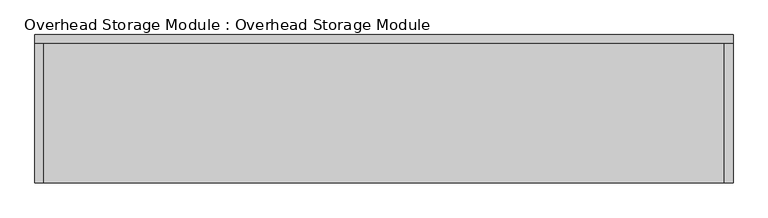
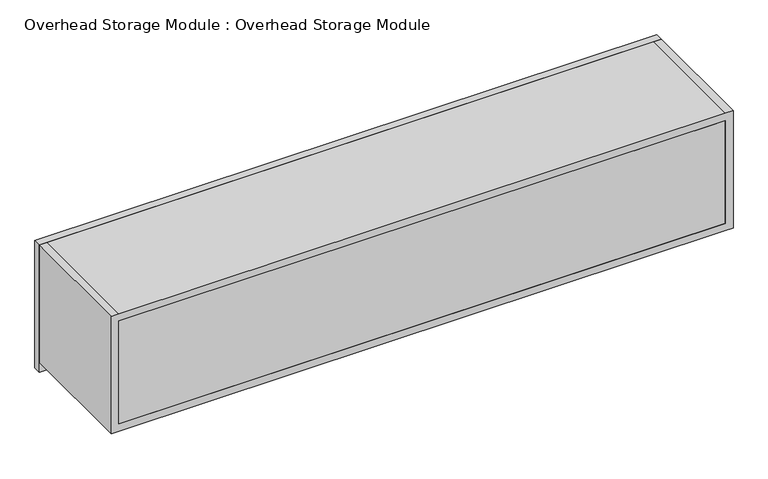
"""IFC4 building model written with IfcOpenShell, lengths in millimetres: furniture geometry, Overhead Storage Module : Overhead Storage Module."""

import ifcopenshell
import ifcopenshell.guid

model = None  # the IFC model being written
_history = None  # IfcOwnerHistory: only IFC2X3 demands one
_inside = {}  # id of a spatial element -> (the spatial element, [elements in it])
_under = {}  # id of a project, library or spatial element -> (it, [spatial elements below it])
_declared = {}  # id of a project -> (the project, [libraries it declares])
_typed = {}  # id of a type object -> (the type object, [elements of that type])
_made_of = {}  # id of a material, layer set ... -> (it, [elements and type objects made of it])


def new_model(schema):
    """Start an empty IFC model of exactly this schema.

    Asked for "IFC4X3", IfcOpenShell would pick the latest addendum, in which some entities
    have other attributes; the version numbers below select the first issue.
    IFC2X3 requires an IfcOwnerHistory on every rooted entity: one is made here for all.
    """
    global model, _history
    if schema == "IFC4X3":
        model = ifcopenshell.file(schema_version=(4, 3, 0, 0))
    else:
        model = ifcopenshell.file(schema=schema)
    _inside.clear()
    _under.clear()
    _declared.clear()
    _typed.clear()
    _made_of.clear()
    _history = None
    if model.schema == "IFC2X3":
        org = make("IfcOrganization", Name="unknown")
        user = make(
            "IfcPersonAndOrganization",
            ThePerson=make("IfcPerson", FamilyName="unknown"),
            TheOrganization=org,
        )
        app = make(
            "IfcApplication",
            ApplicationDeveloper=org,
            Version="unknown",
            ApplicationFullName="unknown",
            ApplicationIdentifier="unknown",
        )
        _history = make(
            "IfcOwnerHistory",
            OwningUser=user,
            OwningApplication=app,
            ChangeAction="ADDED",
            CreationDate=0,
        )
    return model


def make(cls, **values):
    """One entity of the class cls with the attributes given. An attribute that is None is left unset."""
    return model.create_entity(
        cls, **{name: value for name, value in values.items() if value is not None}
    )


def rooted(cls, **values):
    """An entity with a GlobalId (a new one), such as an element, a storey or a relation."""
    return make(cls, GlobalId=ifcopenshell.guid.new(), OwnerHistory=_history, **values)


def si_unit(unit_type, name, prefix=None):
    """IfcSIUnit, for example si_unit("LENGTHUNIT", "METRE", prefix="MILLI")."""
    return make("IfcSIUnit", UnitType=unit_type, Prefix=prefix, Name=name)


def assignment(units):
    """IfcUnitAssignment: the units of a project."""
    return None if units is None else make("IfcUnitAssignment", Units=units)


def point(xyz):
    """IfcCartesianPoint."""
    return None if xyz is None else make("IfcCartesianPoint", Coordinates=xyz)


def direction(xyz):
    """IfcDirection."""
    return None if xyz is None else make("IfcDirection", DirectionRatios=xyz)


def frame(location, z_axis=None, x_axis=None):
    """IfcAxis2Placement3D, a coordinate frame: its origin and axes. An axis left out is left unset."""
    return make(
        "IfcAxis2Placement3D",
        Location=point(location),
        Axis=direction(z_axis),
        RefDirection=direction(x_axis),
    )


def origin():
    """The frame at (0, 0, 0) with its axes left unset."""
    return frame((0.0, 0.0, 0.0))


def place(relative_to, where):
    """IfcLocalPlacement: puts the frame where relative to a parent placement (None: the world)."""
    return make(
        "IfcLocalPlacement", PlacementRelTo=relative_to, RelativePlacement=where
    )


def context(
    kind, dimensions, precision=None, world=None, true_north=None, identifier=None
):
    """IfcGeometricRepresentationContext, for example the 3D "Model" context."""
    return make(
        "IfcGeometricRepresentationContext",
        ContextIdentifier=identifier,
        ContextType=kind,
        CoordinateSpaceDimension=dimensions,
        Precision=precision,
        WorldCoordinateSystem=world,
        TrueNorth=true_north,
    )


def project(units=None, contexts=None):
    """IfcProject with its units and contexts."""
    return rooted(
        "IfcProject",
        Name="project",
        RepresentationContexts=contexts,
        UnitsInContext=assignment(units),
    )


def spatial(cls, under=None, at=None, **own):
    """A site, building, storey or space (cls), placed at a placement, below another one or the project."""
    s = rooted(cls, ObjectPlacement=at, **own)
    if under is not None:
        _under.setdefault(under.id(), (under, []))[1].append(s)
    return s


def polyline(points):
    """IfcPolyline through the points."""
    return make("IfcPolyline", Points=[point(p) for p in points])


def outline(outer, holes=None, kind="AREA"):
    """IfcArbitraryClosedProfileDef: a profile drawn as a closed curve; with holes, ...WithVoids."""
    if holes is None:
        return make("IfcArbitraryClosedProfileDef", ProfileType=kind, OuterCurve=outer)
    return make(
        "IfcArbitraryProfileDefWithVoids",
        ProfileType=kind,
        OuterCurve=outer,
        InnerCurves=holes,
    )


def extrude(swept, where, along, depth):
    """IfcExtrudedAreaSolid: the profile swept, set in the frame where, extruded along a direction by depth."""
    return make(
        "IfcExtrudedAreaSolid",
        SweptArea=swept,
        Position=where,
        ExtrudedDirection=direction(along),
        Depth=depth,
    )


def shape(context_of_items, identifier, shape_type, items):
    """IfcShapeRepresentation: the items that make up one representation, for example the "Body"."""
    return make(
        "IfcShapeRepresentation",
        ContextOfItems=context_of_items,
        RepresentationIdentifier=identifier,
        RepresentationType=shape_type,
        Items=items,
    )


def source(mapping_origin, context_of_items, identifier, shape_type, items):
    """IfcRepresentationMap: a shape defined once, which mapped items show again and again."""
    return make(
        "IfcRepresentationMap",
        MappingOrigin=mapping_origin,
        MappedRepresentation=shape(context_of_items, identifier, shape_type, items),
    )


def transform(
    local_origin,
    x_axis=None,
    y_axis=None,
    z_axis=None,
    scale=None,
    scale2=None,
    scale3=None,
    uniform=True,
):
    """IfcCartesianTransformationOperator3D, or its non-uniform kind. x_axis, y_axis, z_axis: its Axis1, 2, 3."""
    if uniform:
        return make(
            "IfcCartesianTransformationOperator3D",
            Axis1=direction(x_axis),
            Axis2=direction(y_axis),
            LocalOrigin=point(local_origin),
            Scale=scale,
            Axis3=direction(z_axis),
        )
    return make(
        "IfcCartesianTransformationOperator3DnonUniform",
        Axis1=direction(x_axis),
        Axis2=direction(y_axis),
        LocalOrigin=point(local_origin),
        Scale=scale,
        Axis3=direction(z_axis),
        Scale2=scale2,
        Scale3=scale3,
    )


def mapped(mapping_source, mapping_target):
    """IfcMappedItem: shows the shape of a source again, moved by a transform."""
    return make(
        "IfcMappedItem", MappingSource=mapping_source, MappingTarget=mapping_target
    )


def made_of(thing, what):
    """Note that an element or type object is made of a material, layer set ...; save() writes the relation."""
    if what is not None:
        _made_of.setdefault(what.id(), (what, []))[1].append(thing)
    return thing


def element(
    cls,
    number,
    at=None,
    inside=None,
    cuts=None,
    type_object=None,
    material=None,
    context=None,
    identifier="Body",
    shape_type=None,
    held_by="IfcProductDefinitionShape",
    body=None,
    shapes=None,
    **own,
):
    """One element of the class cls, such as IfcWall. Its Tag is "e" and its number.

    at: its placement. inside: the storey or other place that contains it. cuts: it is an
    opening in that element (IfcRelVoidsElement). A single representation is given by context,
    identifier, shape_type and body (its items); several are given by shapes. held_by: the class
    of the entity that holds the representations. save() writes the other relations.
    """
    e = rooted(cls, Tag="e%d" % number, ObjectPlacement=at, **own)
    if body is not None:
        shapes = [shape(context, identifier, shape_type, body)]
    if shapes is not None:
        e.Representation = make(held_by, Representations=shapes)
    if inside is not None:
        _inside.setdefault(inside.id(), (inside, []))[1].append(e)
    if cuts is not None:
        rooted(
            "IfcRelVoidsElement", RelatingBuildingElement=cuts, RelatedOpeningElement=e
        )
    if type_object is not None:
        _typed.setdefault(type_object.id(), (type_object, []))[1].append(e)
    return made_of(e, material)


def aggregate(whole, parts):
    """IfcRelAggregates: a whole, such as a stair, and the parts it consists of."""
    return rooted("IfcRelAggregates", RelatingObject=whole, RelatedObjects=parts)


def save(model, path):
    """Write the relations noted so far, then the file.

    IfcRelAggregates (storeys below a building ...), IfcRelContainedInSpatialStructure (elements
    in a storey), IfcRelDefinesByType, IfcRelAssociatesMaterial and IfcRelDeclares: one each for
    every whole, place, type object, material and project.
    """
    for whole, parts in _under.values():
        aggregate(whole, parts)
    for where, things in _inside.values():
        rooted(
            "IfcRelContainedInSpatialStructure",
            RelatedElements=things,
            RelatingStructure=where,
        )
    for kind, things in _typed.values():
        rooted("IfcRelDefinesByType", RelatedObjects=things, RelatingType=kind)
    for what, things in _made_of.values():
        rooted("IfcRelAssociatesMaterial", RelatedObjects=things, RelatingMaterial=what)
    for by, libraries in _declared.values():
        rooted("IfcRelDeclares", RelatingContext=by, RelatedDefinitions=libraries)
    model.write(path)


def overhead_storage_module_overhead_storage_module_bea9f75f(model_context):
    return source(origin(), model_context, "Body", "SweptSolid", [
        extrude(outline(polyline([(1676.4, -919.7824704), (1371.6, -919.7824704), (1371.6, -900.7324704), (1371.6, 585.1675296), (1371.6, 604.2175296), (1676.4, 604.2175296), (1676.4, 585.1675296), (1676.4, -900.7324704), (1676.4, -919.7824704)]), holes=[polyline([(1657.35, -900.7324704), (1657.35, 585.1675296), (1390.65, 585.1675296), (1390.65, -900.7324704), (1657.35, -900.7324704)])]), frame((0.0, -236.1636391, 0.0), z_axis=(0.0, 1.0, 0.0), x_axis=(0.0, 0.0, 1.0)), (0.0, 0.0, 1.0), 304.8),
        extrude(outline(polyline([(585.1675296, -217.1136391), (585.1675296, -236.1636391), (-900.7324704, -236.1636391), (-900.7324704, -217.1136391), (585.1675296, -217.1136391)])), frame((0.0, 0.0, 1390.65), z_axis=(0.0, 0.0, 1.0), x_axis=(1.0, 0.0, 0.0)), (0.0, 0.0, 1.0), 266.7),
        extrude(outline(polyline([(604.2175296, 87.6863609), (604.2175296, 68.6363609), (-919.7824704, 68.6363609), (-919.7824704, 87.6863609), (604.2175296, 87.6863609)])), frame((0.0, 0.0, 1346.2), z_axis=(0.0, 0.0, 1.0), x_axis=(1.0, 0.0, 0.0)), (0.0, 0.0, 1.0), 330.2),
    ])


if __name__ == "__main__":
    model = new_model("IFC4")
    model_context = context("Model", 3, world=origin())
    ifc_project = project(units=[si_unit("LENGTHUNIT", "METRE", prefix="MILLI")], contexts=[model_context])
    site = spatial("IfcSite", under=ifc_project)
    building = spatial("IfcBuilding", under=site)
    placement = place(None, origin())
    overhead_storage_module_overhead_storage_module_shape = overhead_storage_module_overhead_storage_module_bea9f75f(model_context)
    element("IfcFurniture", 1, ObjectType="Overhead Storage Module : Overhead Storage Module", at=placement, inside=building, context=model_context, shape_type="MappedRepresentation", body=[
        mapped(overhead_storage_module_overhead_storage_module_shape, transform((0.0, 0.0, 0.0), x_axis=(1.0, 0.0, 0.0), y_axis=(0.0, 1.0, 0.0), z_axis=(0.0, 0.0, 1.0))),
    ])
    save(model, "model.ifc")
